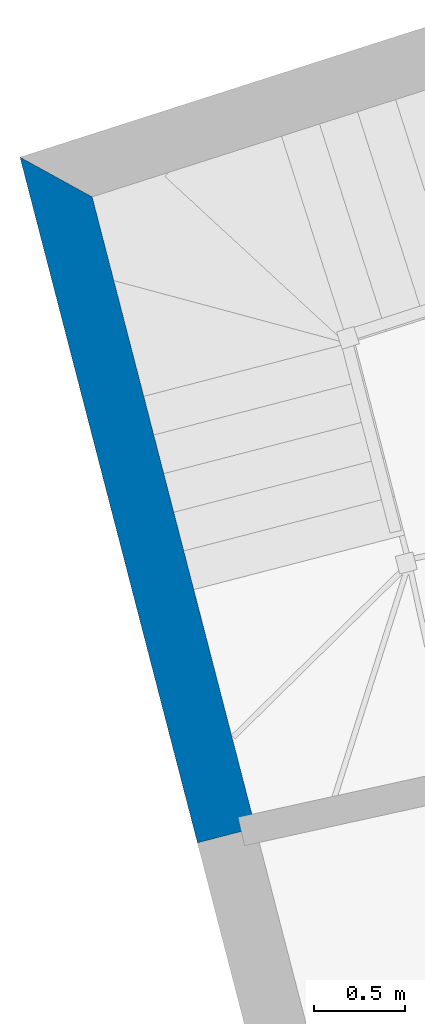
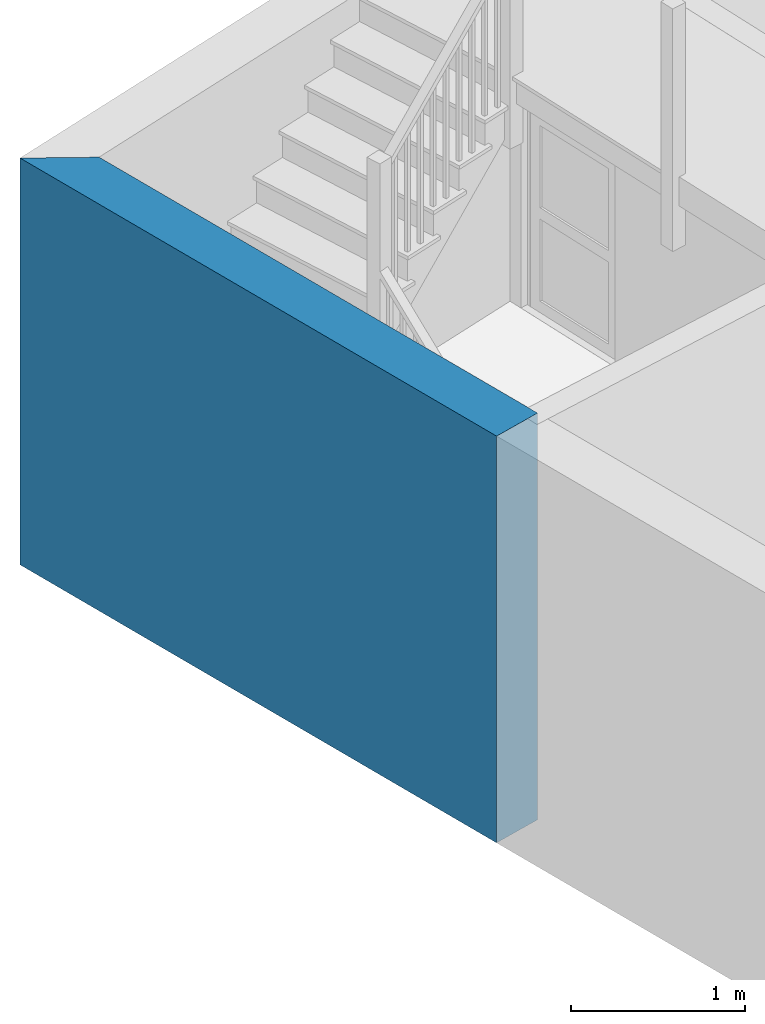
# One storey, part 9 of 14: 1 wall.
"""IFC4 building model written with IfcOpenShell, lengths in metres."""

from ifc_helpers import new_model, si_unit, frame, origin_with_axes, place, context, subcontext, project, spatial, polyline, outline, extrude, material, layer, layer_set, layer_usage, type_object, element, save


model = new_model("IFC4")

# Units and contexts
model_context = context("Model", 3, world=origin_with_axes())
body_context = subcontext(model_context, "Body", "Model", "MODEL_VIEW")
ifc_project = project(units=[si_unit("PLANEANGLEUNIT", "RADIAN"), si_unit("MASSUNIT", "GRAM", prefix="KILO"), si_unit("FORCEUNIT", "NEWTON", prefix="KILO"), si_unit("LENGTHUNIT", "METRE"), si_unit("AREAUNIT", "SQUARE_METRE"), si_unit("VOLUMEUNIT", "CUBIC_METRE")], contexts=[model_context, model_context])

# Site, building, storey
site_placement = place(None, origin_with_axes())
site = spatial("IfcSite", under=ifc_project, at=site_placement, Name="Site plot-2", CompositionType="ELEMENT")
building_placement = place(None, origin_with_axes())
building = spatial("IfcBuilding", under=site, at=building_placement, Name="Building plot-2", CompositionType="ELEMENT")
storey_placement = place(None, origin_with_axes())
storey = spatial("IfcBuildingStorey", under=building, at=storey_placement, Name="plot-2 0", CompositionType="ELEMENT", Elevation=0.0)

# Wall
ifc_material = material(Name="Masonry")
ifc_layer = layer(ifc_material, 0.33, ventilated=False)
ifc_layer_set = layer_set([ifc_layer], Name="party_0.08_0.25")
ifc_layer_usage = layer_usage(ifc_layer_set, "AXIS2", "POSITIVE", -0.25)
wall_type = type_object("IfcWallType", Name="party_0.08_0.25", PredefinedType="SOLIDWALL", material=ifc_layer_set)
wall_placement = place(storey_placement, frame((8.085955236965, 13.8731701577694, 0.0), z_axis=(0.0, 0.0, 1.0), x_axis=(0.250522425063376, -0.968110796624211, 0.0)))
element("IfcWall", 1, at=wall_placement, inside=storey, type_object=wall_type, material=ifc_layer_usage, Name="party", context=body_context, shape_type="SweptSolid", body=[
    extrude(outline(polyline([(0.0755552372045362, 0.0799999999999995), (-0.236110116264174, -0.250000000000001), (3.66659044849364, -0.249999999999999), (3.66659044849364, 0.0800000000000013), (0.0755552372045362, 0.0799999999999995)])), origin_with_axes(), (0.0, 0.0, 1.0), 2.85),
])

save(model, "model.ifc")
